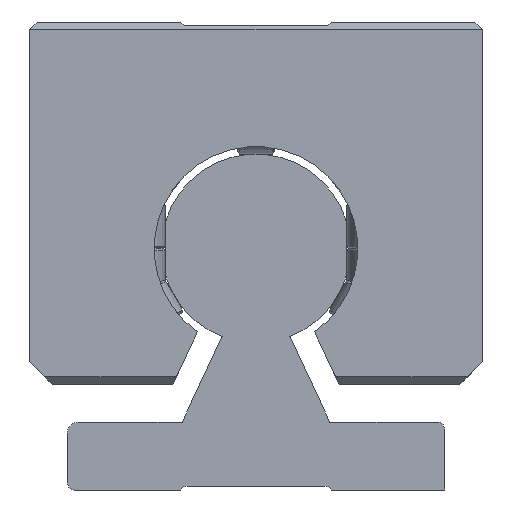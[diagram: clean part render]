
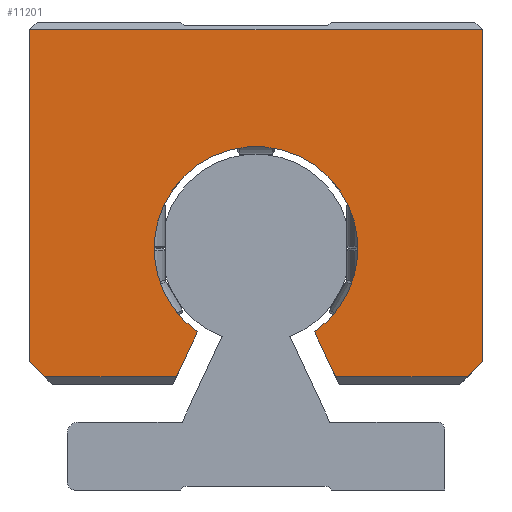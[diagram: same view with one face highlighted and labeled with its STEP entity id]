
A CAD part, left-side view. The second image highlights one B-rep face of the part: STEP entity #11201.
In plain terms, the highlighted planar face has unit normal (-1, 0, 0).
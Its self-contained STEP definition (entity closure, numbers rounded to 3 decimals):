
#9714=CARTESIAN_POINT('',(231.696,-30.,61.));
#9715=VERTEX_POINT('',#9714);
#9724=CARTESIAN_POINT('',(231.696,-30.,17.));
#9725=VERTEX_POINT('',#9724);
#9726=CARTESIAN_POINT('',(231.696,-30.,61.));
#9727=DIRECTION('',(0.0,0.0,-1.0));
#9728=VECTOR('',#9727,44.);
#9729=LINE('',#9726,#9728);
#9730=EDGE_CURVE('',#9715,#9725,#9729,.T.);
#9973=CARTESIAN_POINT('',(231.696,-7.758,20.952));
#9974=VERTEX_POINT('',#9973);
#9981=CARTESIAN_POINT('',(231.696,7.758,20.952));
#9982=VERTEX_POINT('',#9981);
#9983=CARTESIAN_POINT('',(231.696,0.,32.0));
#9984=DIRECTION('',(-1.0,0.0,0.0));
#9985=DIRECTION('',(0.0,-1.0,0.0));
#9986=AXIS2_PLACEMENT_3D('',#9983,#9984,#9985);
#9987=CIRCLE('',#9986,13.5);
#9988=EDGE_CURVE('',#9974,#9982,#9987,.T.);
#10817=CARTESIAN_POINT('',(231.696,30.,61.));
#10818=VERTEX_POINT('',#10817);
#10825=CARTESIAN_POINT('',(231.696,30.,61.));
#10826=DIRECTION('',(0.0,-1.0,0.0));
#10827=VECTOR('',#10826,60.0);
#10828=LINE('',#10825,#10827);
#10829=EDGE_CURVE('',#10818,#9715,#10828,.T.);
#10839=CARTESIAN_POINT('',(231.696,28.,15.));
#10840=VERTEX_POINT('',#10839);
#10857=CARTESIAN_POINT('',(231.696,10.534,15.));
#10858=VERTEX_POINT('',#10857);
#10865=CARTESIAN_POINT('',(231.696,10.534,15.));
#10866=DIRECTION('',(0.0,1.0,0.0));
#10867=VECTOR('',#10866,17.466);
#10868=LINE('',#10865,#10867);
#10869=EDGE_CURVE('',#10858,#10840,#10868,.T.);
#10934=CARTESIAN_POINT('',(231.696,30.,17.));
#10935=VERTEX_POINT('',#10934);
#10936=CARTESIAN_POINT('',(231.696,28.,15.));
#10937=DIRECTION('',(0.0,0.707,0.707));
#10938=VECTOR('',#10937,2.828);
#10939=LINE('',#10936,#10938);
#10940=EDGE_CURVE('',#10840,#10935,#10939,.T.);
#11127=CARTESIAN_POINT('',(231.696,-28.,15.));
#11128=VERTEX_POINT('',#11127);
#11129=CARTESIAN_POINT('',(231.696,-30.,17.));
#11130=DIRECTION('',(0.0,0.707,-0.707));
#11131=VECTOR('',#11130,2.828);
#11132=LINE('',#11129,#11131);
#11133=EDGE_CURVE('',#9725,#11128,#11132,.T.);
#11151=CARTESIAN_POINT('',(231.696,-10.534,15.));
#11152=VERTEX_POINT('',#11151);
#11153=CARTESIAN_POINT('',(231.696,-28.,15.));
#11154=DIRECTION('',(0.0,1.0,0.0));
#11155=VECTOR('',#11154,17.466);
#11156=LINE('',#11153,#11155);
#11157=EDGE_CURVE('',#11128,#11152,#11156,.T.);
#11169=CARTESIAN_POINT('',(231.696,-20.,61.75));
#11170=DIRECTION('',(1.0,0.0,0.0));
#11171=DIRECTION('',(0.0,0.0,-1.0));
#11172=AXIS2_PLACEMENT_3D('',#11169,#11170,#11171);
#11173=PLANE('',#11172);
#11174=ORIENTED_EDGE('',*,*,#10869,.F.);
#11175=CARTESIAN_POINT('',(231.696,7.758,20.952));
#11176=DIRECTION('',(0.0,0.423,-0.906));
#11177=VECTOR('',#11176,6.567);
#11178=LINE('',#11175,#11177);
#11179=EDGE_CURVE('',#9982,#10858,#11178,.T.);
#11180=ORIENTED_EDGE('',*,*,#11179,.F.);
#11181=ORIENTED_EDGE('',*,*,#9988,.F.);
#11182=CARTESIAN_POINT('',(231.696,-10.534,15.));
#11183=DIRECTION('',(0.0,0.423,0.906));
#11184=VECTOR('',#11183,6.567);
#11185=LINE('',#11182,#11184);
#11186=EDGE_CURVE('',#11152,#9974,#11185,.T.);
#11187=ORIENTED_EDGE('',*,*,#11186,.F.);
#11188=ORIENTED_EDGE('',*,*,#11157,.F.);
#11189=ORIENTED_EDGE('',*,*,#11133,.F.);
#11190=ORIENTED_EDGE('',*,*,#9730,.F.);
#11191=ORIENTED_EDGE('',*,*,#10829,.F.);
#11192=CARTESIAN_POINT('',(231.696,30.,17.));
#11193=DIRECTION('',(0.0,0.0,1.0));
#11194=VECTOR('',#11193,44.);
#11195=LINE('',#11192,#11194);
#11196=EDGE_CURVE('',#10935,#10818,#11195,.T.);
#11197=ORIENTED_EDGE('',*,*,#11196,.F.);
#11198=ORIENTED_EDGE('',*,*,#10940,.F.);
#11199=EDGE_LOOP('',(#11174,#11180,#11181,#11187,#11188,#11189,#11190,#11191,#11197,#11198));
#11200=FACE_OUTER_BOUND('',#11199,.T.);
#11201=ADVANCED_FACE('',(#11200),#11173,.F.);
